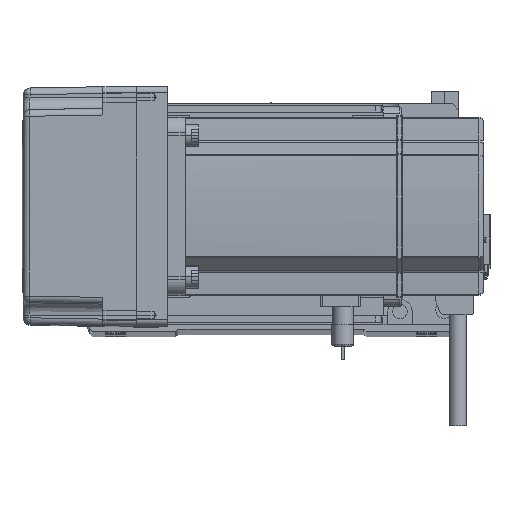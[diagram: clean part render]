
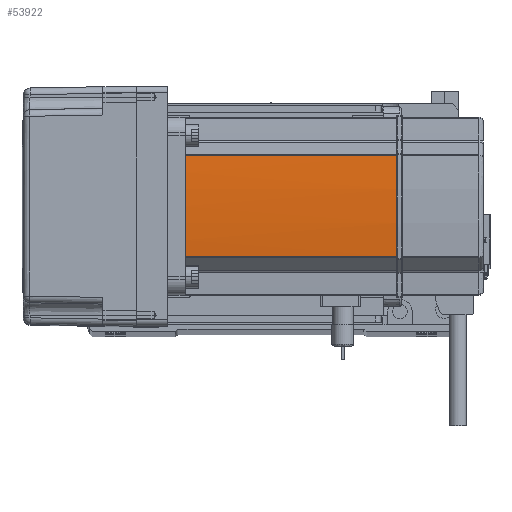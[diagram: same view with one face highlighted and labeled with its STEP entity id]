
A CAD part, top view. The second image highlights one B-rep face of the part: STEP entity #53922.
In plain terms, the highlighted cylindrical face has radius 270 mm (diameter 540 mm), a partial arc.
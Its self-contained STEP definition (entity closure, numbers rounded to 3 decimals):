
#365 = CARTESIAN_POINT ( 'NONE',  ( 40., 0.127, 134. ) ) ;
#667 = DIRECTION ( 'NONE',  ( 0., 0., -1. ) ) ;
#677 = VERTEX_POINT ( 'NONE', #43041 ) ;
#1949 = AXIS2_PLACEMENT_3D ( 'NONE', #56712, #15697, #57096 ) ;
#2663 = CARTESIAN_POINT ( 'NONE',  ( 39.042, 22.724, 58. ) ) ;
#2981 = EDGE_CURVE ( 'NONE', #39714, #22897, #41571, .T. ) ;
#5497 = CARTESIAN_POINT ( 'NONE',  ( -230., 0., 134. ) ) ;
#5754 = AXIS2_PLACEMENT_3D ( 'NONE', #5497, #667, #55948 ) ;
#10630 = CIRCLE ( 'NONE', #5754, 270. ) ;
#11261 = CARTESIAN_POINT ( 'NONE',  ( 39.042, -22.724, 39. ) ) ;
#11802 = CIRCLE ( 'NONE', #1949, 270. ) ;
#12261 = CARTESIAN_POINT ( 'NONE',  ( 40., -0.127, 134. ) ) ;
#13081 = B_SPLINE_CURVE_WITH_KNOTS ( 'NONE', 3,
 ( #12261, #57850, #34998, #40034 ),
 .UNSPECIFIED., .F., .F.,
 ( 4, 4 ),
 ( 0., 1. ),
 .UNSPECIFIED. ) ;
#13991 = ORIENTED_EDGE ( 'NONE', *, *, #41757, .T. ) ;
#14640 = DIRECTION ( 'NONE',  ( -1., 0., 0. ) ) ;
#15697 = DIRECTION ( 'NONE',  ( 0., 0., -1. ) ) ;
#16126 = DIRECTION ( 'NONE',  ( 0., 0., 1. ) ) ;
#17473 = FACE_OUTER_BOUND ( 'NONE', #32327, .T. ) ;
#19690 = CARTESIAN_POINT ( 'NONE',  ( -230., 0., 39. ) ) ;
#20476 = AXIS2_PLACEMENT_3D ( 'NONE', #19690, #32938, #14640 ) ;
#21026 = AXIS2_PLACEMENT_3D ( 'NONE', #45207, #27487, #59612 ) ;
#22159 = VERTEX_POINT ( 'NONE', #31257 ) ;
#22897 = VERTEX_POINT ( 'NONE', #11261 ) ;
#23320 = ORIENTED_EDGE ( 'NONE', *, *, #48411, .T. ) ;
#25609 = DIRECTION ( 'NONE',  ( 0., 0., -1. ) ) ;
#26339 = ORIENTED_EDGE ( 'NONE', *, *, #46702, .F. ) ;
#27487 = DIRECTION ( 'NONE',  ( 0., 0., -1. ) ) ;
#27490 = CARTESIAN_POINT ( 'NONE',  ( 39.042, -22.724, 134. ) ) ;
#27501 = ORIENTED_EDGE ( 'NONE', *, *, #40407, .T. ) ;
#31103 = ORIENTED_EDGE ( 'NONE', *, *, #2981, .F. ) ;
#31257 = CARTESIAN_POINT ( 'NONE',  ( 39.042, 22.724, 134. ) ) ;
#32327 = EDGE_LOOP ( 'NONE', ( #49726, #31103, #27501, #23320, #26339, #13991 ) ) ;
#32801 = VERTEX_POINT ( 'NONE', #27490 ) ;
#32938 = DIRECTION ( 'NONE',  ( 0., 0., -1. ) ) ;
#34998 = CARTESIAN_POINT ( 'NONE',  ( 40., 0.042, 134. ) ) ;
#36807 = CARTESIAN_POINT ( 'NONE',  ( 39.042, 22.724, 39. ) ) ;
#39333 = CARTESIAN_POINT ( 'NONE',  ( 39.042, -22.724, 58. ) ) ;
#39714 = VERTEX_POINT ( 'NONE', #36807 ) ;
#39777 = VECTOR ( 'NONE', #25609, 1000. ) ;
#40034 = CARTESIAN_POINT ( 'NONE',  ( 40., 0.127, 134. ) ) ;
#40407 = EDGE_CURVE ( 'NONE', #39714, #22159, #58654, .T. ) ;
#41571 = CIRCLE ( 'NONE', #20476, 270. ) ;
#41757 = EDGE_CURVE ( 'NONE', #677, #32801, #11802, .T. ) ;
#42075 = VERTEX_POINT ( 'NONE', #365 ) ;
#43041 = CARTESIAN_POINT ( 'NONE',  ( 40., -0.127, 134. ) ) ;
#45207 = CARTESIAN_POINT ( 'NONE',  ( -230., 0., 58. ) ) ;
#46702 = EDGE_CURVE ( 'NONE', #677, #42075, #13081, .T. ) ;
#48411 = EDGE_CURVE ( 'NONE', #22159, #42075, #10630, .T. ) ;
#49726 = ORIENTED_EDGE ( 'NONE', *, *, #54217, .T. ) ;
#50811 = VECTOR ( 'NONE', #16126, 1000. ) ;
#51958 = LINE ( 'NONE', #39333, #39777 ) ;
#52676 = CYLINDRICAL_SURFACE ( 'NONE', #21026, 270. ) ;
#53922 = ADVANCED_FACE ( 'NONE', ( #17473 ), #52676, .T. ) ;
#54217 = EDGE_CURVE ( 'NONE', #32801, #22897, #51958, .T. ) ;
#55948 = DIRECTION ( 'NONE',  ( -1., 0., 0. ) ) ;
#56712 = CARTESIAN_POINT ( 'NONE',  ( -230., 0., 134. ) ) ;
#57096 = DIRECTION ( 'NONE',  ( -1., 0., 0. ) ) ;
#57850 = CARTESIAN_POINT ( 'NONE',  ( 40., -0.042, 134. ) ) ;
#58654 = LINE ( 'NONE', #2663, #50811 ) ;
#59612 = DIRECTION ( 'NONE',  ( -1., 0., 0. ) ) ;
